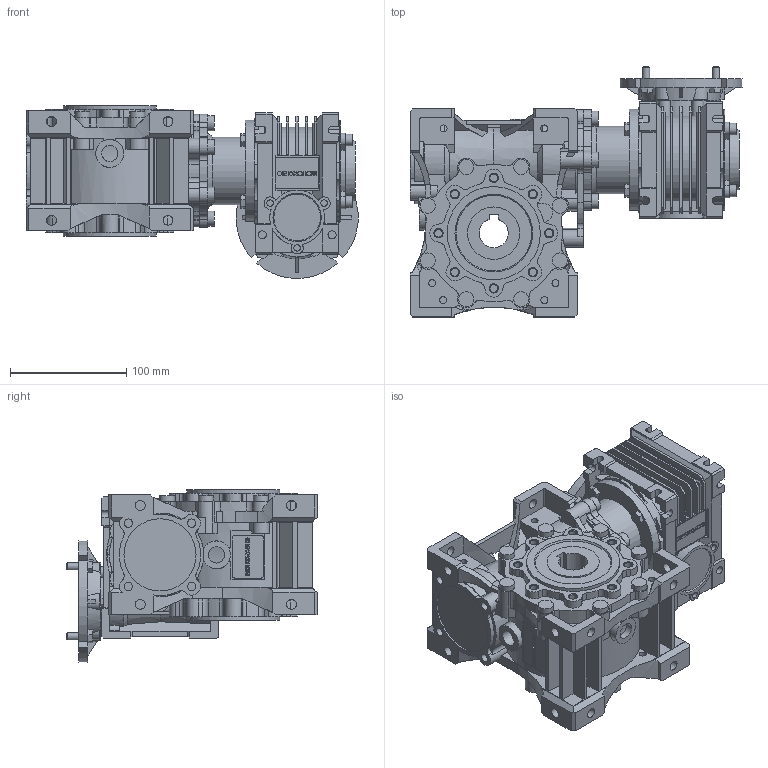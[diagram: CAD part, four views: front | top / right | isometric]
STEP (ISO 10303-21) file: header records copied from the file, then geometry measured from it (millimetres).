
FILE_DESCRIPTION(/* description */ ('STEP AP214'),/* implementation_level */ '2;1');
FILE_NAME(/* name */ 'NMRVP-NMRVP 040-063 100 (10x10) VS1 105x14 18 NO 25 NO NO - - NO - - - NO NO - --(--------)',/* time_stamp */ '2024-10-23T11:06:00+02:00',/* author */ ('License CC BY-ND 4.0'),/* organization */ ('CADENAS'),/* preprocessor_version */ 'ST-DEVELOPER v19.3',/* originating_system */ 'PARTsolutions',/* authorisation */ ' ');
FILE_SCHEMA (('AUTOMOTIVE_DESIGN {1 0 10303 214 3 1 1}'));
Products named in the file (11): NMRVP-NMRVP 040-063 100 (10x10) VS1 105x14 18 NO 25 NO NO - - NO - - 
- NO NO - --(--------); W.063.01.M; 063-25 (112); W.063.14.19.M-p; 040-063-TRA; W.040.01.M; 040-18 (78); VB 040-14 (14)-p; 4071 B14; Corona 40-p; 63-45
Assembly tree (10 placements, depth 2):
  NMRVP-NMRVP 040-063 100 (10x10) VS1 105x14 18 NO 25 NO NO - - NO - - 
- NO NO - --(--------)
    W.063.01.M
    063-25 (112)
    W.063.14.19.M-p
    040-063-TRA
    W.040.01.M
    040-18 (78)
    VB 040-14 (14)-p
    4071 B14
    Corona 40-p
    63-45
Bounding box: 285.33 x 215 x 148.33 mm (x, y, z)
Volume: 2669319.5 mm3; surface area: 482988.4 mm2
Topology: 10 solids, 14 shells, 2279 faces, 6203 edges, 4073 vertices
Faces by surface type: plane 1427, cylinder 728, cone 120, torus 4
Full cylindrical faces by diameter (mm): 4.917 x8, 5.55 x3, 6 x16, 6.647 x16, 7 x6, 7.26 x12, 7.8 x1, 8.5 x14, 10 x10, 10.8 x4, 11 x6, 13 x14, 14 x3, 16 x1, 23 x2, 24 x1, 25 x1, 27 x1, 28 x1, 30 x2, 35 x2, 36 x1, 37 x1, 40 x1, 44 x1, 45 x3, 47 x1, 58 x1, 60 x3, 62 x3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
Entity records: 87136 total; most frequent: CARTESIAN_POINT 13660, DIRECTION 12048, ORIENTED_EDGE 11918, EDGE_CURVE 5959, AXIS2_PLACEMENT_3D 4196, VERTEX_POINT 4026, LINE 3656, VECTOR 3656
